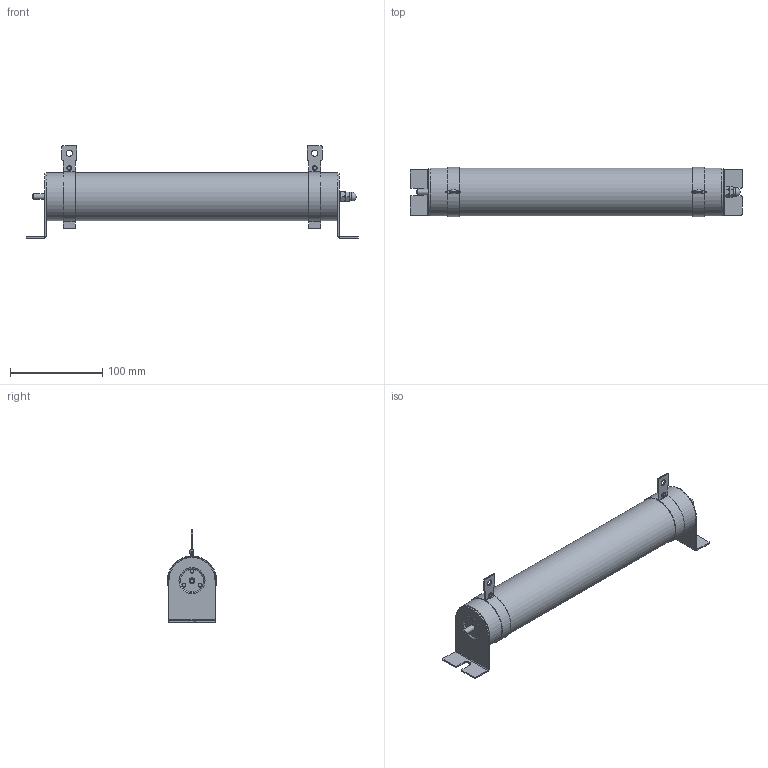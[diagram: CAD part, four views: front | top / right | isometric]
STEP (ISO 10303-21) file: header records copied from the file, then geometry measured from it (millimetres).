
FILE_DESCRIPTION(('STEP AP203'), '1');
FILE_NAME('Ðåçèñòîð òîðìîçíîé _ 600 Âò 180 Îì', '', ('UNSPECIFIED'), ('UNSPECIFIED'), 'C3D Converter', 'C3D Toolkit', '');
FILE_SCHEMA(('CONFIG_CONTROL_DESIGN'));
Length unit declared in the file: millimetre
Products named in the file (16): 600 Вт 180 Ом; РТ 600 Вт 180 Ом; ГОСТ 22032-76; DIN 125 (A); DIN 127 (A); DIN 934; ГОСТ 11860-85; ГОСТ 10299-80
Assembly tree (19 placements, depth 3):
  600 Вт 180 Ом
    РТ 600 Вт 180 Ом
    РТ 600 Вт 180 Ом  x2
    ГОСТ 22032-76  x2
      (unnamed)
    DIN 125 (A)
      (unnamed)
    DIN 127 (A)
      (unnamed)
    DIN 934
      (unnamed)
    ГОСТ 11860-85
      (unnamed)
    РТ 600 Вт 180 Ом  x2
    ГОСТ 10299-80  x2
      (unnamed)
Bounding box: 360 x 53.5 x 100 mm (x, y, z)
Volume: 687288.1 mm3; surface area: 89578.5 mm2
Topology: 15 solids, 15 shells, 283 faces, 620 edges, 377 vertices
Faces by surface type: plane 142, cylinder 104, cone 22, torus 12, sphere 3
Full cylindrical faces by diameter (mm): 3.5 x6, 4 x6, 4.917 x2, 6 x4, 6.4 x1, 6.5 x2, 6.7 x4, 9.5 x1, 12 x1, 30 x2, 52 x1
Entity records: 6840 total; most frequent: CARTESIAN_POINT 1797, DIRECTION 816, ORIENTED_EDGE 658, AXIS2_PLACEMENT_3D 336, EDGE_CURVE 329, EDGE_LOOP 234, VERTEX_POINT 221, ADVANCED_FACE 171
